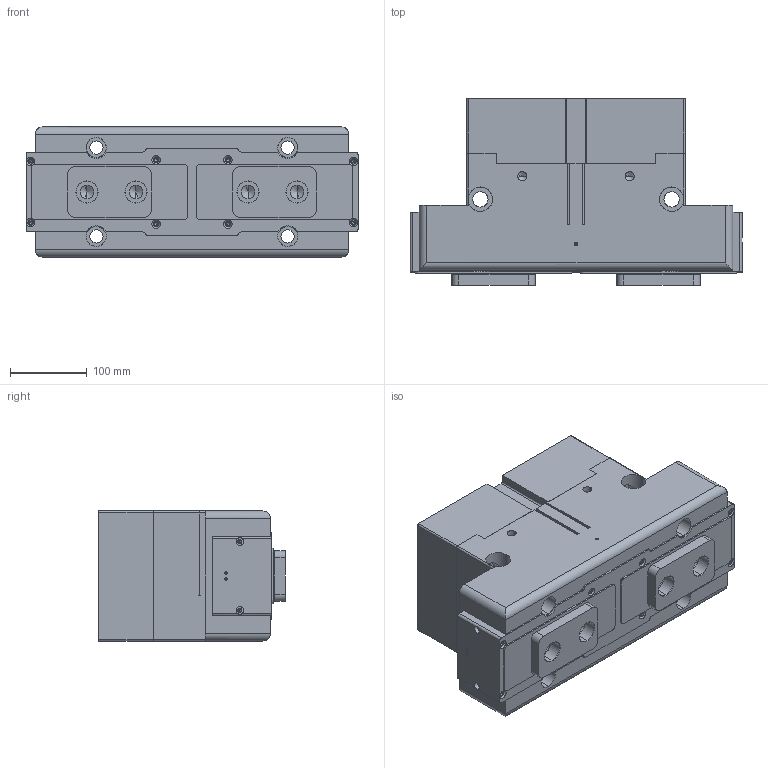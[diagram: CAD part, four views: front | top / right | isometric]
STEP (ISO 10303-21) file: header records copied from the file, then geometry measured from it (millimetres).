
FILE_DESCRIPTION (( 'STEP AP214' ), '1' );
FILE_NAME ('TWN-380A-1-IS-SD.STEP', '2019-12-10T08:45:20', ( '' ), ( '' ), 'SwSTEP 2.0', 'SolidWorks 2016', '' );
FILE_SCHEMA (( 'AUTOMOTIVE_DESIGN' ));
Length unit declared in the file: millimetre
Products named in the file (7): TWN-380A-1-IS-SD-01; TWN-380A-1-IS-SD-04; TWN-380A-1-IS-SD; TWN-380A-1-IS-SD-06; TWN-380A-1-IS-SD-02; TWN-380A-1-IS-SD-03; TWN-380A-1-IS-SD-05
Assembly tree (9 placements, depth 2):
  TWN-380A-1-IS-SD
    TWN-380A-1-IS-SD-01
    TWN-380A-1-IS-SD-03
    TWN-380A-1-IS-SD-02  x2
    TWN-380A-1-IS-SD-04
    TWN-380A-1-IS-SD-05  x2
    TWN-380A-1-IS-SD-06  x2
Bounding box: 433.8 x 244 x 170 mm (x, y, z)
Volume: 12050980.5 mm3; surface area: 957629.4 mm2
Topology: 9 solids, 12 shells, 676 faces, 1832 edges, 1158 vertices
Faces by surface type: cylinder 282, plane 282, cone 112
Entity records: 19555 total; most frequent: CARTESIAN_POINT 3913, DIRECTION 3079, ORIENTED_EDGE 2894, EDGE_CURVE 1447, AXIS2_PLACEMENT_3D 1104, VERTEX_POINT 954, VECTOR 871, LINE 871
